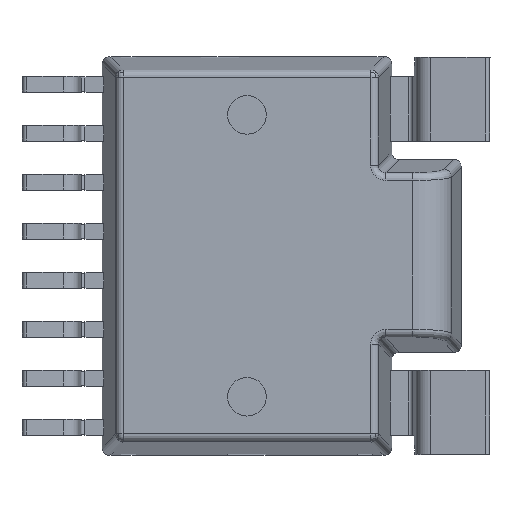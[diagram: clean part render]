
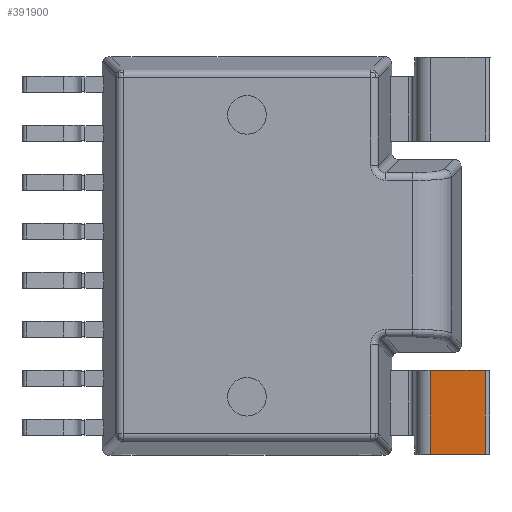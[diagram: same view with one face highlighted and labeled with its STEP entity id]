
A CAD part, top view. The second image highlights one B-rep face of the part: STEP entity #391900.
In plain terms, the highlighted planar face has unit normal (-0.07, 0, 0.998).
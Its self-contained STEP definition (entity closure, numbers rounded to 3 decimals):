
#390420=CARTESIAN_POINT('',(10778.6,-2324.446,
3.356));
#390430=VERTEX_POINT('',#390420);
#390460=CARTESIAN_POINT('',(13.6,-2324.444,
-749.406));
#390470=DIRECTION('',(-0.998,0.,
-0.07));
#390480=VECTOR('',#390470,1.);
#390490=LINE('',#390460,#390480);
#390500=CARTESIAN_POINT('',(10777.175,-2324.446,
3.256));
#390510=VERTEX_POINT('',#390500);
#390520=EDGE_CURVE('',#390430,#390510,#390490,.T.);
#391600=CARTESIAN_POINT('',(10774.631,-2323.584,
3.078));
#391610=DIRECTION('',(-0.07,0.,
0.998));
#391620=DIRECTION('',(-0.998,0.,
-0.07));
#391630=AXIS2_PLACEMENT_3D('',#391600,#391610,#391620);
#391640=PLANE('',#391630);
#391650=ORIENTED_EDGE('',*,*,#390520,.T.);
#391660=CARTESIAN_POINT('',(10778.6,-4750.188,
3.356));
#391670=DIRECTION('',(0.,1.,0.));
#391680=VECTOR('',#391670,1.);
#391690=LINE('',#391660,#391680);
#391700=CARTESIAN_POINT('',(10778.6,-2326.622,
3.356));
#391710=VERTEX_POINT('',#391700);
#391720=EDGE_CURVE('',#391710,#390430,#391690,.T.);
#391730=ORIENTED_EDGE('',*,*,#391720,.T.);
#391740=CARTESIAN_POINT('',(13.6,-2326.621,
-749.406));
#391750=DIRECTION('',(-0.998,0.,
-0.07));
#391760=VECTOR('',#391750,1.);
#391770=LINE('',#391740,#391760);
#391780=CARTESIAN_POINT('',(10777.175,-2326.622,
3.256));
#391790=VERTEX_POINT('',#391780);
#391800=EDGE_CURVE('',#391710,#391790,#391770,.T.);
#391810=ORIENTED_EDGE('',*,*,#391800,.F.);
#391820=CARTESIAN_POINT('',(10777.175,-4750.188,
3.256));
#391830=DIRECTION('',(0.,-1.,0.));
#391840=VECTOR('',#391830,1.);
#391850=LINE('',#391820,#391840);
#391860=EDGE_CURVE('',#390510,#391790,#391850,.T.);
#391870=ORIENTED_EDGE('',*,*,#391860,.T.);
#391880=EDGE_LOOP('',(#391870,#391810,#391730,#391650));
#391890=FACE_OUTER_BOUND('',#391880,.T.);
#391900=ADVANCED_FACE('',(#391890),#391640,.T.);
